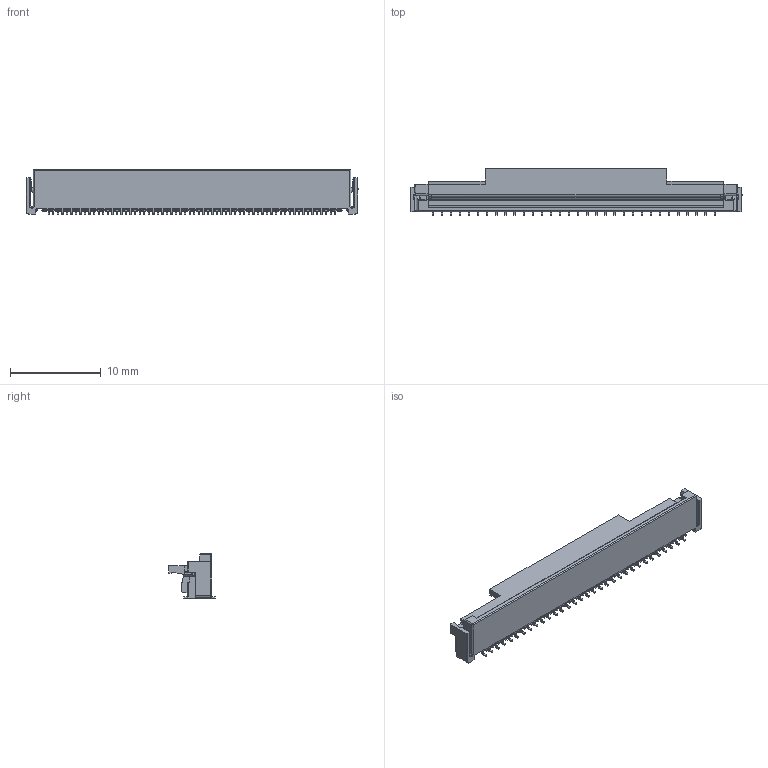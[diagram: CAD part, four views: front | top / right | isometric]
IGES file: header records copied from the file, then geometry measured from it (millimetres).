
Start section: SolidWorks IGES file using analytic representation for surfaces
Global section: file name: Q:\Kamikawa_Hisako\171006\6251\00_6251_0xx_010_846_+\00_6251_064_010_846+.IGS; native system: SolidWorks 2014; preprocessor: SolidWorks 2014; author: 151066016; date: 171017.142914; units: millimetre
Bounding box: 36.5 x 5.15 x 4.95 mm (x, y, z)
Surface area: 1005 mm2 (no closed solid volume)
Topology: 0 solids, 0 shells, 1365 faces, 9128 edges, 9127 vertices
Faces by surface type: bspline 1073, revolution 292
